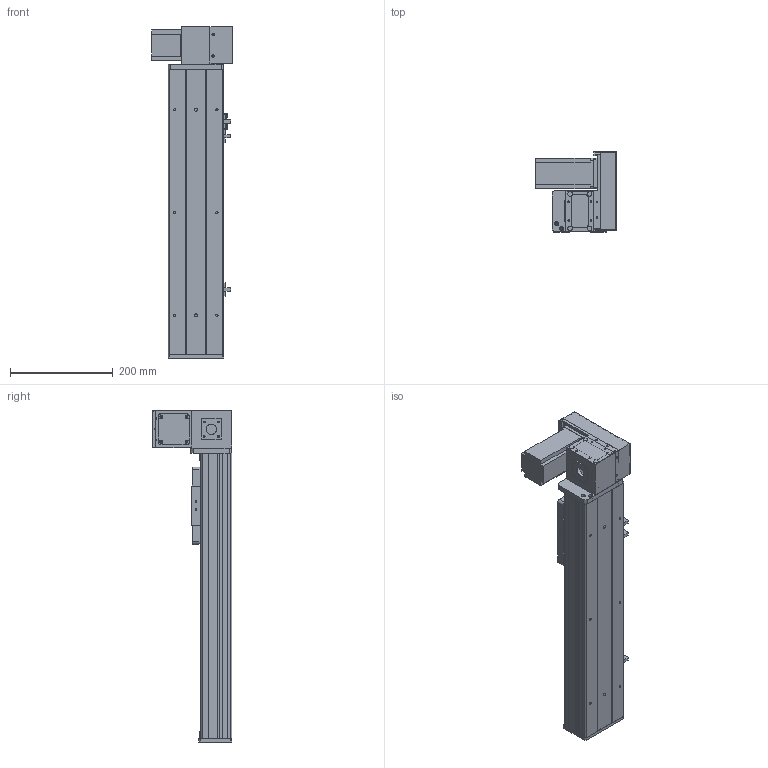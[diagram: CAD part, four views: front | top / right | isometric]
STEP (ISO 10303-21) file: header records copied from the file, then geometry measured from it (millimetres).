
FILE_DESCRIPTION (( 'STEP AP203' ), '1' );
FILE_NAME ('Y10CB-D90-S300-UR-P400W.STEP', '2020-02-16T02:59:11', ( '微软用户' ), ( '微软中国' ), 'SwSTEP 2.0', 'SolidWorks 2017', '' );
FILE_SCHEMA (( 'CONFIG_CONTROL_DESIGN' ));
Length unit declared in the file: millimetre
Products named in the file (18): Y10B--々湍喘謫眊--666; 0B-埴倛裔啣; Y10B-耜蚾蟀諉啣----; 10CB-詩湍-; 00B-俋欶BM--; Y10CB- 掛极耜裔啣-毀---; 0CB-雄赽釱---; Y10CB-D90-S300-UR-P400W; Y10C---詩湍揤啣; 0Cb-俋欶---; 10CB9-掛极; Y10B-々湍喘謫眊楊擘啣--; 10CB-耜裔; 0B-萇儂楊擘啣; Y135C-陔俋离換覜結え-; san松下电机400不带刹车----; Y100-135俋离換覜ん--; 0B-源倛裔啣
Assembly tree (21 placements, depth 2):
  Y10CB-D90-S300-UR-P400W
    0CB-雄赽釱---
    0Cb-俋欶---
    Y10B-々湍喘謫眊楊擘啣--
    0B-萇儂楊擘啣
    san松下电机400不带刹车----
    0B-源倛裔啣
    0B-埴倛裔啣
    10CB-詩湍-
    Y10CB- 掛极耜裔啣-毀---  x2
    Y10C---詩湍揤啣  x2
    10CB9-掛极
    10CB-耜裔
    Y135C-陔俋离換覜結え-
    Y100-135俋离換覜ん--  x3
    Y10B--々湍喘謫眊--666
    Y10B-耜蚾蟀諉啣----
    00B-俋欶BM--
Bounding box: 157 x 155.5 x 646 mm (x, y, z)
Volume: 1914583.3 mm3; surface area: 795180.3 mm2
Topology: 21 solids, 21 shells, 942 faces, 2483 edges, 1634 vertices
Faces by surface type: plane 469, cylinder 449, cone 24
Entity records: 28912 total; most frequent: CARTESIAN_POINT 4877, DIRECTION 4726, ORIENTED_EDGE 4436, EDGE_CURVE 2218, AXIS2_PLACEMENT_3D 1693, VERTEX_POINT 1460, LINE 1340, VECTOR 1340
